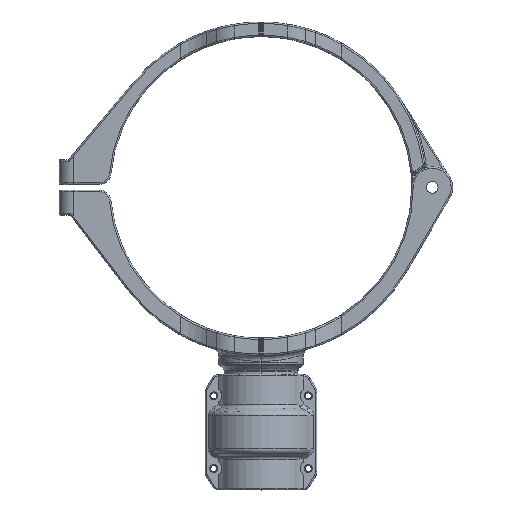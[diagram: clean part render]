
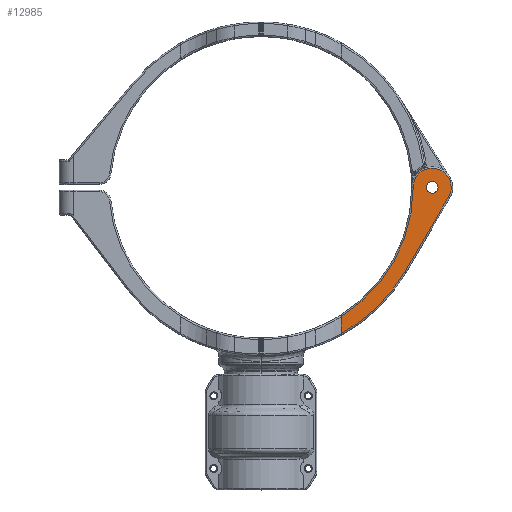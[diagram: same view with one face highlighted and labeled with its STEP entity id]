
A CAD part, top view. The second image highlights one B-rep face of the part: STEP entity #12985.
In plain terms, the highlighted planar face has unit normal (0, 0, 1).
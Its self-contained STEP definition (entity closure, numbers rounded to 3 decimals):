
#3270=DIRECTION('',(0.,-1.,0.));
#3271=VECTOR('',#3270,11.654);
#3272=CARTESIAN_POINT('',(55.329,-88.913,20.12));
#3273=LINE('',#3272,#3271);
#3290=CARTESIAN_POINT('',(0.,0.,20.12));
#3291=DIRECTION('',(0.,0.,1.));
#3292=DIRECTION('',(0.528,-0.849,0.));
#3293=AXIS2_PLACEMENT_3D('',#3290,#3291,#3292);
#3298=CARTESIAN_POINT('',(117.8,0.,20.12));
#3299=DIRECTION('',(0.,0.,-1.));
#3300=DIRECTION('',(-1.,0.,0.));
#3301=AXIS2_PLACEMENT_3D('',#3298,#3299,#3300);
#3306=CARTESIAN_POINT('',(117.8,0.,20.12));
#3307=DIRECTION('',(0.,0.,-1.));
#3308=DIRECTION('',(1.,0.,0.));
#3309=AXIS2_PLACEMENT_3D('',#3306,#3307,#3308);
#3314=DIRECTION('',(-0.505,-0.863,0.));
#3315=VECTOR('',#3314,59.439);
#3316=CARTESIAN_POINT('',(129.091,-6.599,20.12));
#3317=LINE('',#3316,#3315);
#3321=CARTESIAN_POINT('',(0.,0.,20.12));
#3322=DIRECTION('',(0.,0.,-1.));
#3323=DIRECTION('',(0.863,-0.505,0.));
#3324=AXIS2_PLACEMENT_3D('',#3321,#3322,#3323);
#3329=CARTESIAN_POINT('',(117.8,0.,20.12));
#3330=DIRECTION('',(0.,0.,1.));
#3331=DIRECTION('',(-1.,0.,0.));
#3332=AXIS2_PLACEMENT_3D('',#3329,#3330,#3331);
#3337=CARTESIAN_POINT('',(117.8,0.,20.12));
#3338=DIRECTION('',(0.,0.,1.));
#3339=DIRECTION('',(1.,0.,0.));
#3340=AXIS2_PLACEMENT_3D('',#3337,#3338,#3339);
#8295=CARTESIAN_POINT('',(55.329,-100.566,20.12));
#8296=VERTEX_POINT('',#8295);
#8297=CARTESIAN_POINT('',(99.099,-57.917,20.12));
#8298=VERTEX_POINT('',#8297);
#8299=CARTESIAN_POINT('',(129.091,-6.599,20.12));
#8300=VERTEX_POINT('',#8299);
#8301=CARTESIAN_POINT('',(104.722,0.,20.12));
#8302=VERTEX_POINT('',#8301);
#8303=CARTESIAN_POINT('',(130.877,0.,20.12));
#8304=VERTEX_POINT('',#8303);
#8305=CARTESIAN_POINT('',(55.329,-88.913,20.12));
#8306=VERTEX_POINT('',#8305);
#8311=CARTESIAN_POINT('',(113.776,0.,20.12));
#8312=CARTESIAN_POINT('',(121.824,0.,20.12));
#8313=VERTEX_POINT('',#8311);
#8314=VERTEX_POINT('',#8312);
#12966=CARTESIAN_POINT('',(55.329,-201.195,20.12));
#12967=DIRECTION('',(0.,0.,1.));
#12968=DIRECTION('',(1.,0.,0.));
#12969=AXIS2_PLACEMENT_3D('',#12966,#12967,#12968);
#12970=PLANE('',#12969);
#12971=ORIENTED_EDGE('',*,*,#12960,.F.);
#12972=ORIENTED_EDGE('',*,*,#12771,.T.);
#12973=ORIENTED_EDGE('',*,*,#12757,.T.);
#12974=ORIENTED_EDGE('',*,*,#12755,.T.);
#12975=ORIENTED_EDGE('',*,*,#12740,.T.);
#12976=ORIENTED_EDGE('',*,*,#12726,.T.);
#12977=EDGE_LOOP('',(#12971,#12972,#12973,#12974,#12975,#12976));
#12978=FACE_OUTER_BOUND('',#12977,.F.);
#12980=ORIENTED_EDGE('',*,*,#12979,.T.);
#12982=ORIENTED_EDGE('',*,*,#12981,.T.);
#12983=EDGE_LOOP('',(#12980,#12982));
#12984=FACE_BOUND('',#12983,.F.);
#3294=CIRCLE('',#3293,104.722);
#3302=CIRCLE('',#3301,13.078);
#3310=CIRCLE('',#3309,13.078);
#3325=CIRCLE('',#3324,114.782);
#3333=CIRCLE('',#3332,4.024);
#3341=CIRCLE('',#3340,4.024);
#12726=EDGE_CURVE('',#8298,#8296,#3325,.T.);
#12740=EDGE_CURVE('',#8300,#8298,#3317,.T.);
#12755=EDGE_CURVE('',#8304,#8300,#3310,.T.);
#12757=EDGE_CURVE('',#8302,#8304,#3302,.T.);
#12771=EDGE_CURVE('',#8306,#8302,#3294,.T.);
#12960=EDGE_CURVE('',#8306,#8296,#3273,.T.);
#12979=EDGE_CURVE('',#8313,#8314,#3333,.T.);
#12981=EDGE_CURVE('',#8314,#8313,#3341,.T.);
#12985=ADVANCED_FACE('',(#12978,#12984),#12970,.T.);
